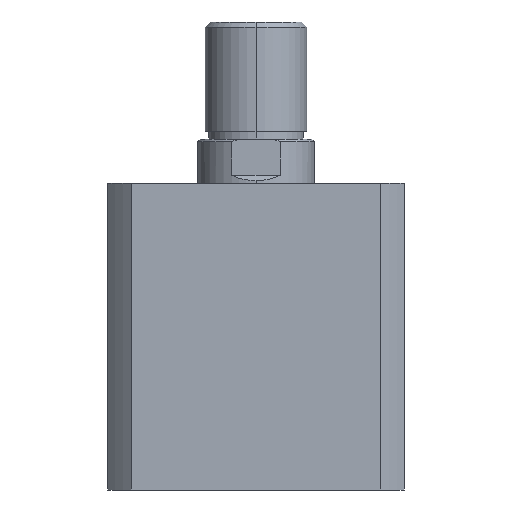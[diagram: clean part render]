
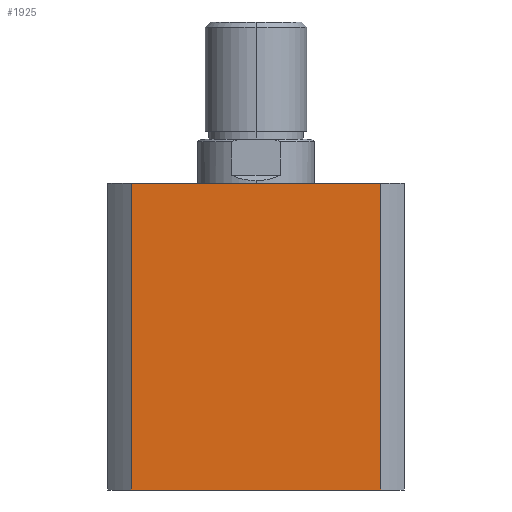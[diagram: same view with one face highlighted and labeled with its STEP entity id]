
A CAD part, left-side view. The second image highlights one B-rep face of the part: STEP entity #1925.
In plain terms, the highlighted planar face has unit normal (-1, 0, 0).
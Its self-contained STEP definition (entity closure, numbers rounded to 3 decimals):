
#667 = DIRECTION ( 'NONE',  ( 0., -1., 0. ) ) ;
#672 = CARTESIAN_POINT ( 'NONE',  ( -57., 0., 118. ) ) ;
#674 = DIRECTION ( 'NONE',  ( 0., 0., -1. ) ) ;
#675 = CARTESIAN_POINT ( 'NONE',  ( -57., -47.971, 118. ) ) ;
#678 = CARTESIAN_POINT ( 'NONE',  ( -57., 47.971, 118. ) ) ;
#681 = DIRECTION ( 'NONE',  ( 0., 0., -1. ) ) ;
#754 = ORIENTED_EDGE ( 'NONE', *, *, #1711, .T. ) ;
#767 = ORIENTED_EDGE ( 'NONE', *, *, #3843, .T. ) ;
#768 = ORIENTED_EDGE ( 'NONE', *, *, #1713, .F. ) ;
#769 = ORIENTED_EDGE ( 'NONE', *, *, #1714, .F. ) ;
#921 = VERTEX_POINT ( 'NONE', #2074 ) ;
#932 = VERTEX_POINT ( 'NONE', #2055 ) ;
#1045 = LINE ( 'NONE', #678, #1048 ) ;
#1047 = LINE ( 'NONE', #672, #1053 ) ;
#1048 = VECTOR ( 'NONE', #674, 1000. ) ;
#1049 = LINE ( 'NONE', #675, #1051 ) ;
#1051 = VECTOR ( 'NONE', #681, 1000. ) ;
#1053 = VECTOR ( 'NONE', #667, 1000. ) ;
#1568 = EDGE_LOOP ( 'NONE', ( #767, #768, #769, #754 ) ) ;
#1711 = EDGE_CURVE ( 'NONE', #2748, #932, #1045, .T. ) ;
#1713 = EDGE_CURVE ( 'NONE', #921, #2839, #1049, .T. ) ;
#1714 = EDGE_CURVE ( 'NONE', #2748, #921, #1047, .T. ) ;
#1925 = ADVANCED_FACE ( 'NONE', ( #2472 ), #5160, .F. ) ;
#2055 = CARTESIAN_POINT ( 'NONE',  ( -57., 47.971, 0. ) ) ;
#2074 = CARTESIAN_POINT ( 'NONE',  ( -57., -47.971, 118. ) ) ;
#2472 = FACE_OUTER_BOUND ( 'NONE', #1568, .T. ) ;
#2748 = VERTEX_POINT ( 'NONE', #5126 ) ;
#2839 = VERTEX_POINT ( 'NONE', #5009 ) ;
#3036 = AXIS2_PLACEMENT_3D ( 'NONE', #5182, #5155, #5154 ) ;
#3843 = EDGE_CURVE ( 'NONE', #932, #2839, #4084, .T. ) ;
#4084 = LINE ( 'NONE', #4608, #4086 ) ;
#4086 = VECTOR ( 'NONE', #4607, 1000. ) ;
#4607 = DIRECTION ( 'NONE',  ( 0., -1., 0. ) ) ;
#4608 = CARTESIAN_POINT ( 'NONE',  ( -57., 0., 0. ) ) ;
#5009 = CARTESIAN_POINT ( 'NONE',  ( -57., -47.971, 0. ) ) ;
#5126 = CARTESIAN_POINT ( 'NONE',  ( -57., 47.971, 118. ) ) ;
#5154 = DIRECTION ( 'NONE',  ( 0., 0., -1. ) ) ;
#5155 = DIRECTION ( 'NONE',  ( 1., 0., 0. ) ) ;
#5160 = PLANE ( 'NONE',  #3036 ) ;
#5182 = CARTESIAN_POINT ( 'NONE',  ( -57., 0., 118. ) ) ;
